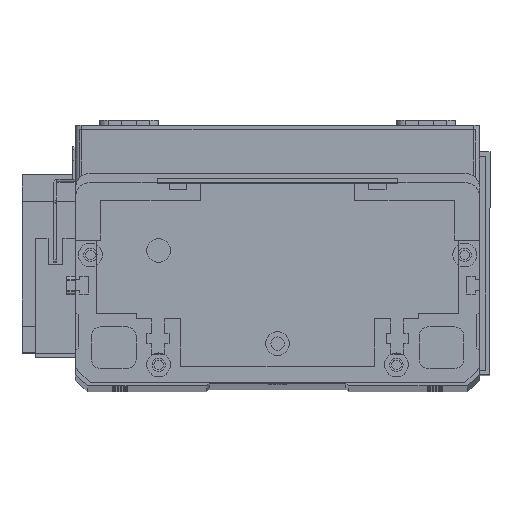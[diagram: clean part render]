
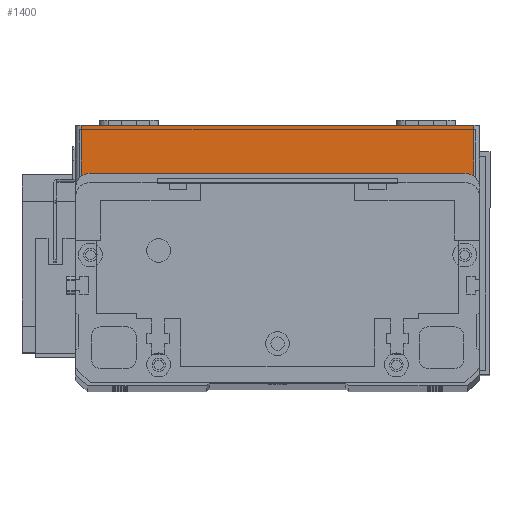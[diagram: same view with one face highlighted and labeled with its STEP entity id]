
A CAD part, top view. The second image highlights one B-rep face of the part: STEP entity #1400.
In plain terms, the highlighted planar face has unit normal (0, 0, 1) as drawn and (0, -1, 0) by its records, which use the part's own axes.
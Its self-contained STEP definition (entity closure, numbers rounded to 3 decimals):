
#1400 = ADVANCED_FACE ( 'NONE', ( #10749 ), #23159, .F. ) ;
#2411 = LINE ( 'NONE', #7187, #13045 ) ;
#2654 = DIRECTION ( 'NONE',  ( 0., 0., -1. ) ) ;
#4342 = VECTOR ( 'NONE', #28079, 1000. ) ;
#5235 = VECTOR ( 'NONE', #18607, 1000. ) ;
#6336 = ORIENTED_EDGE ( 'NONE', *, *, #21900, .F. ) ;
#7187 = CARTESIAN_POINT ( 'NONE',  ( 2., 0., 19.5 ) ) ;
#7537 = EDGE_CURVE ( 'NONE', #19699, #11415, #8521, .T. ) ;
#8521 = LINE ( 'NONE', #19677, #23807 ) ;
#8602 = ORIENTED_EDGE ( 'NONE', *, *, #17540, .T. ) ;
#9653 = EDGE_CURVE ( 'NONE', #25432, #19699, #18769, .T. ) ;
#10749 = FACE_OUTER_BOUND ( 'NONE', #17401, .T. ) ;
#10939 = CARTESIAN_POINT ( 'NONE',  ( 134., 0., 19.5 ) ) ;
#11415 = VERTEX_POINT ( 'NONE', #10939 ) ;
#13045 = VECTOR ( 'NONE', #2654, 1000. ) ;
#13539 = CARTESIAN_POINT ( 'NONE',  ( 2., 0., 19.5 ) ) ;
#17401 = EDGE_LOOP ( 'NONE', ( #6336, #8602, #25569, #22975 ) ) ;
#17540 = EDGE_CURVE ( 'NONE', #24962, #25432, #2411, .T. ) ;
#18518 = CARTESIAN_POINT ( 'NONE',  ( 134., 0., 0. ) ) ;
#18607 = DIRECTION ( 'NONE',  ( 1., 0., 0. ) ) ;
#18769 = LINE ( 'NONE', #19461, #5235 ) ;
#19002 = DIRECTION ( 'NONE',  ( 0., 0., 1. ) ) ;
#19461 = CARTESIAN_POINT ( 'NONE',  ( 0., 0., 0. ) ) ;
#19677 = CARTESIAN_POINT ( 'NONE',  ( 134., 0., 19.5 ) ) ;
#19699 = VERTEX_POINT ( 'NONE', #18518 ) ;
#21896 = DIRECTION ( 'NONE',  ( 0., 0., 1. ) ) ;
#21900 = EDGE_CURVE ( 'NONE', #24962, #11415, #28275, .T. ) ;
#22452 = AXIS2_PLACEMENT_3D ( 'NONE', #23468, #23076, #21896 ) ;
#22975 = ORIENTED_EDGE ( 'NONE', *, *, #7537, .T. ) ;
#23076 = DIRECTION ( 'NONE',  ( 0., 1., 0. ) ) ;
#23159 = PLANE ( 'NONE',  #22452 ) ;
#23468 = CARTESIAN_POINT ( 'NONE',  ( 0., 0., 19.5 ) ) ;
#23807 = VECTOR ( 'NONE', #19002, 1000. ) ;
#24962 = VERTEX_POINT ( 'NONE', #13539 ) ;
#25432 = VERTEX_POINT ( 'NONE', #26127 ) ;
#25569 = ORIENTED_EDGE ( 'NONE', *, *, #9653, .T. ) ;
#26127 = CARTESIAN_POINT ( 'NONE',  ( 2., 0., 0. ) ) ;
#26255 = CARTESIAN_POINT ( 'NONE',  ( 0., 0., 19.5 ) ) ;
#28079 = DIRECTION ( 'NONE',  ( 1., 0., 0. ) ) ;
#28275 = LINE ( 'NONE', #26255, #4342 ) ;
